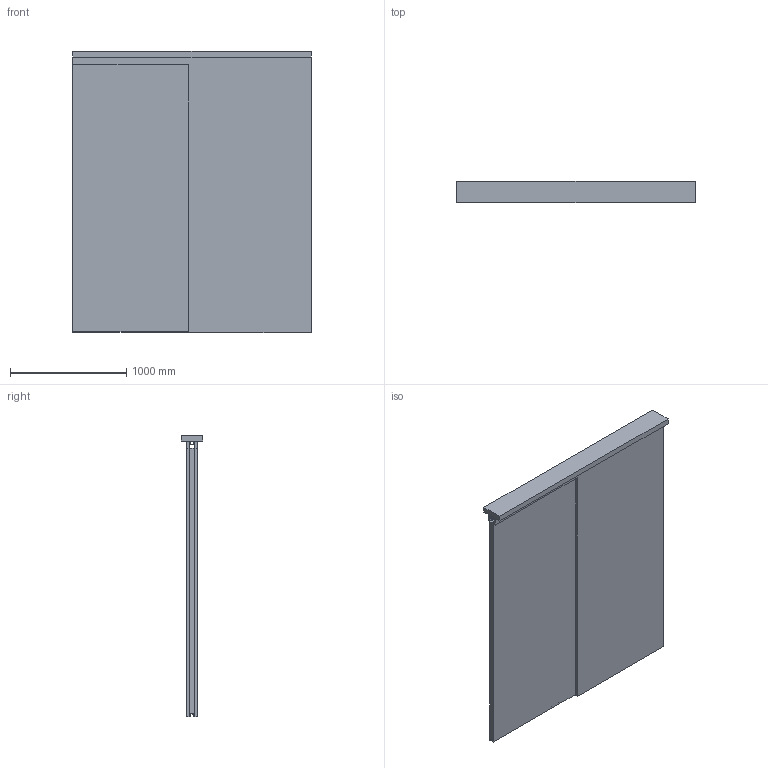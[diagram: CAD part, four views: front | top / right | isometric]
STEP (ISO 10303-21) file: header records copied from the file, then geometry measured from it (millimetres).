
FILE_DESCRIPTION(('STEP AP242'),'1');
FILE_NAME('OPO_65.080.06_volu_schn_3d.stp','2026-01-14T05:24:45',(' '),(' '),'Spatial InterOp 3D',' ',' ');
FILE_SCHEMA(('AP242_MANAGED_MODEL_BASED_3D_ENGINEERING_MIM_LF {1 0 10303 442 1 1 4}'));
Length unit declared in the file: millimetre
Products named in the file (1): 1
Bounding box: 2050 x 188 x 2418 mm (x, y, z)
Volume: 214081404.4 mm3; surface area: 17343972.4 mm2
Topology: 6 solids, 6 shells, 164 faces, 2867 edges, 5099 vertices
Faces by surface type: plane 124, cylinder 40
Entity records: 36265 total; most frequent: CARTESIAN_POINT 3682, DIRECTION 3590, STYLED_ITEM 2603, PRESENTATION_STYLE_ASSIGNMENT 2603, COLOUR_RGB 2603, LINE 2448, VECTOR 2448, COMPOSITE_CURVE 2439
